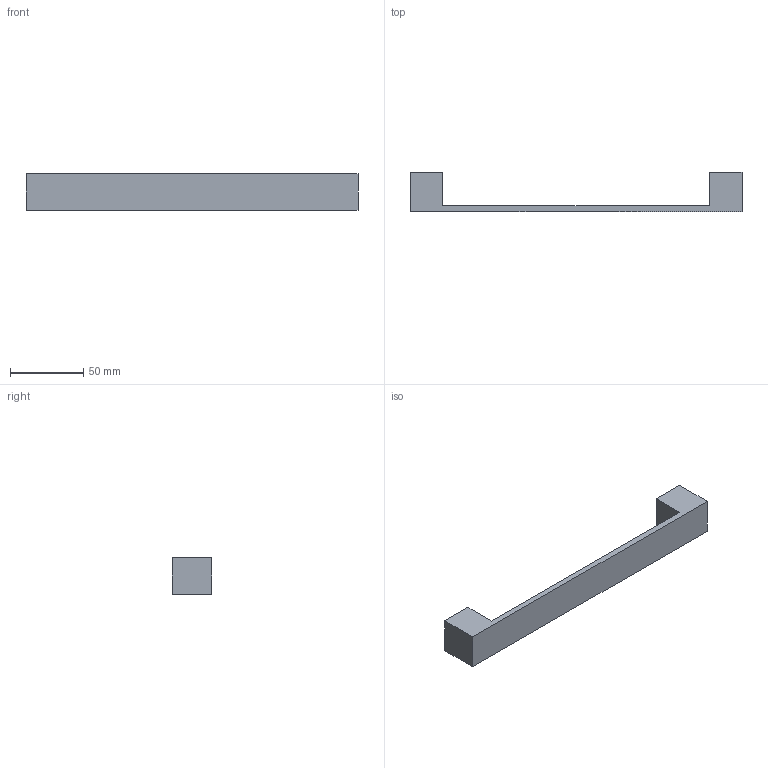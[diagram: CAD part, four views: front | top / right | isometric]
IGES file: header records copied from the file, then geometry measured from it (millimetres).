
Start section: Data from Parasolid IGES Translator 20.0.26, Copyright(c) 2006 Siemens P LM Software. All Rights Reserved.
Global section: file name: 9113212.igs; native system: By Siemens PLM Incorporated; preprocessor: XPlus GENERIC/IGES 20.0.26; author: Noname; organization: Noname; date: 20201112.111812; units: millimetre
Bounding box: 227 x 27 x 25 mm (x, y, z)
Surface area: 18432 mm2 (no closed solid volume)
Topology: 0 solids, 0 shells, 19 faces, 90 edges, 88 vertices
Faces by surface type: extrusion 13, revolution 6
